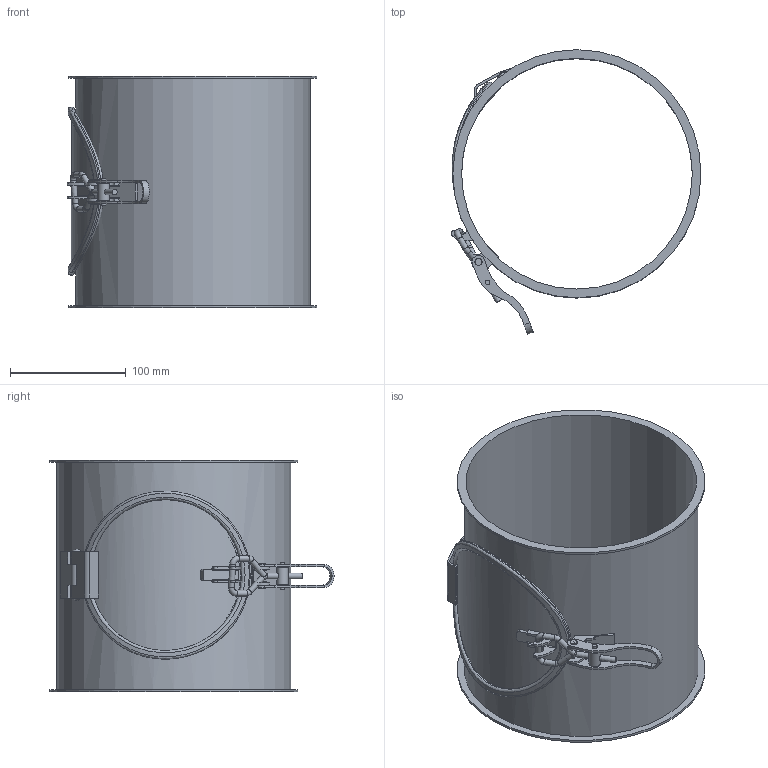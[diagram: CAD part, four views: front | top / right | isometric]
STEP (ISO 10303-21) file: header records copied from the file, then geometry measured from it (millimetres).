
FILE_DESCRIPTION((''),'2;1');
FILE_NAME('U:\Wolfgang\Marcel-3D\fertig\Kapitel 4\2011043.stp','2011-04-21T08:49:43',('TK1'),(''),'Autodesk Inventor 2010','Autodesk Inventor 2010','');
FILE_SCHEMA(('AUTOMOTIVE_DESIGN { 1 0 10303 214 1 1 1 1 }'));
Length unit declared in the file: millimetre
Products named in the file (15): 2011043 (Detailgenauigkeit1); 2011043-1; GelenkDeckel20b; GelenkDeckel1c; Deckel20; Deckel20b; GelenkDeckel1a; VerschlussDeckel20; dichtung20; Verschluss20; Verschluss20a; Verschluss1b; Verschluss1c; Verschluss1d; Verschluss1e
Assembly tree (15 placements, depth 3):
  2011043 (Detailgenauigkeit1)
    2011043-1
    GelenkDeckel20b
    GelenkDeckel1c
    Deckel20
      Deckel20b
      GelenkDeckel1a
      VerschlussDeckel20
      dichtung20
    Verschluss20
      Verschluss20a
      Verschluss1b
      Verschluss1c
      Verschluss1d  x2
      Verschluss1e
Bounding box: 215.62 x 245.35 x 200 mm (x, y, z)
Volume: 235088.7 mm3; surface area: 308359.4 mm2
Topology: 13 solids, 13 shells, 177 faces, 416 edges, 269 vertices
Faces by surface type: cylinder 81, plane 80, torus 9, bspline 5, sphere 2
Full cylindrical faces by diameter (mm): 2 x4, 4 x4, 5 x6, 6 x6, 6.2 x2, 10 x1, 115 x1, 130 x1, 135 x1, 145 x1, 199 x1, 202 x1, 214 x2
Entity records: 6836 total; most frequent: CARTESIAN_POINT 2579, DIRECTION 862, ORIENTED_EDGE 710, EDGE_CURVE 355, AXIS2_PLACEMENT_3D 341, VERTEX_POINT 252, EDGE_LOOP 241, VECTOR 180
